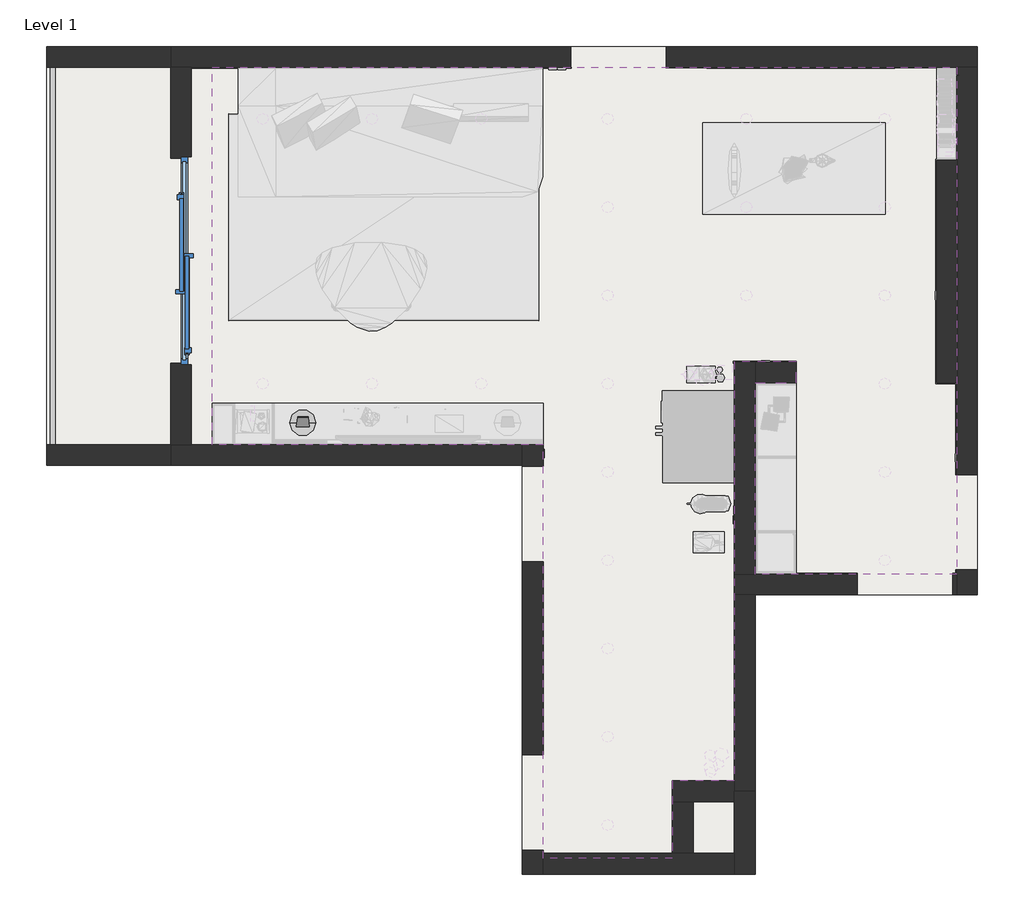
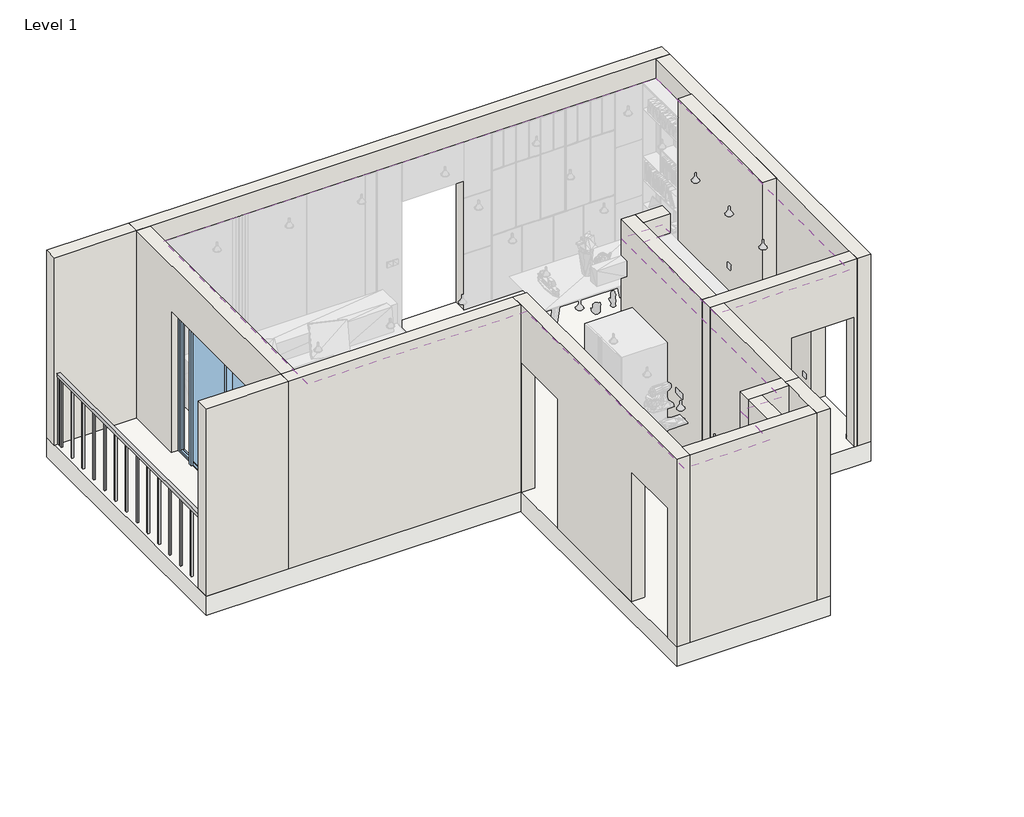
# One storey, part 1 of 3: 16 walls, 1 covering, 1 furniture element, 1 railing, 1 slab, 1 window.
"""IFC4 building model written with IfcOpenShell, lengths in millimetres."""

from ifc_helpers import new_model, si_unit, point, frame, frame_2d, origin, origin_with_axes, place, context, project, spatial, polyline, circle_curve, trimmed, segment, composite_curve, outline, extrude, faceted_brep, transform, mapped, element, save
from components import entertainment_center_7110b_entertainment_center_7110b_65f11607, window_c57f878f

model = new_model("IFC4")

# Units and contexts
model_context = context("Model", 3, world=origin())
ifc_project = project(units=[si_unit("LENGTHUNIT", "METRE", prefix="MILLI")], contexts=[model_context])

# Site, building, storey
site = spatial("IfcSite", under=ifc_project)
building = spatial("IfcBuilding", under=site)
storey = spatial("IfcBuildingStorey", under=building, Name="Level 1", Elevation=0.0)

# Covering
placement = place(None, origin())
element("IfcCovering", 1, ObjectType="600 x 1200mm Grid", at=placement, inside=storey, context=model_context, shape_type="SweptSolid", body=[
    extrude(outline(polyline([(-5253.3010987, -2802.1687653), (-5253.3010987, 847.8312347), (1946.6989013, 847.8312347), (1946.6989013, -4052.1687653), (-3.3010987, -4052.1687653), (-3.3010987, -2202.1687653), (396.6989013, -2202.1687653), (396.6989013, -2002.1687653), (-203.3010987, -2002.1687653), (-203.3010987, -6052.1687653), (-803.3010987, -6052.1687653), (-803.3010987, -6802.1687653), (-2053.3010987, -6802.1687653), (-2053.3010987, -2802.1687653), (-5253.3010987, -2802.1687653)]), holes=[polyline([(-2713.3010987, -1522.1687653), (-2713.3010987, -272.1687653), (-4673.3010987, -272.1687653), (-4673.3010987, -1522.1687653), (-2713.3010987, -1522.1687653)]), composite_curve([segment(trimmed(circle_curve(frame_2d((-4763.3010987, 347.8312347)), 55.3683433), [point((-4818.669442, 347.8312347))], [point((-4707.9327554, 347.8312347))], True, "CARTESIAN"), True, "CONTINUOUS"), segment(trimmed(circle_curve(frame_2d((-4763.3010987, 347.8312347)), 55.3683433), [point((-4707.9327554, 347.8312347))], [point((-4818.669442, 347.8312347))], True, "CARTESIAN"), True, "CONTINUOUS")], self_intersect=False), composite_curve([segment(trimmed(circle_curve(frame_2d((1251.6989013, 347.8312347)), 55.3683433), [point((1196.330558, 347.8312347))], [point((1307.0672446, 347.8312347))], True, "CARTESIAN"), True, "CONTINUOUS"), segment(trimmed(circle_curve(frame_2d((1251.6989013, 347.8312347)), 55.3683433), [point((1307.0672446, 347.8312347))], [point((1196.330558, 347.8312347))], True, "CARTESIAN"), True, "CONTINUOUS")], self_intersect=False), composite_curve([segment(trimmed(circle_curve(frame_2d((-1428.3010987, 347.8312347)), 55.3683433), [point((-1483.669442, 347.8312347))], [point((-1372.9327554, 347.8312347))], True, "CARTESIAN"), True, "CONTINUOUS"), segment(trimmed(circle_curve(frame_2d((-1428.3010987, 347.8312347)), 55.3683433), [point((-1372.9327554, 347.8312347))], [point((-1483.669442, 347.8312347))], True, "CARTESIAN"), True, "CONTINUOUS")], self_intersect=False), composite_curve([segment(trimmed(circle_curve(frame_2d((-2649.9677654, 347.8312347)), 55.3683433), [point((-2705.3361087, 347.8312347))], [point((-2594.5994221, 347.8312347))], True, "CARTESIAN"), True, "CONTINUOUS"), segment(trimmed(circle_curve(frame_2d((-2649.9677654, 347.8312347)), 55.3683433), [point((-2594.5994221, 347.8312347))], [point((-2705.3361087, 347.8312347))], True, "CARTESIAN"), True, "CONTINUOUS")], self_intersect=False), composite_curve([segment(trimmed(circle_curve(frame_2d((-3706.6344321, 347.8312347)), 55.3683433), [point((-3762.0027753, 347.8312347))], [point((-3651.2660888, 347.8312347))], True, "CARTESIAN"), True, "CONTINUOUS"), segment(trimmed(circle_curve(frame_2d((-3706.6344321, 347.8312347)), 55.3683433), [point((-3651.2660888, 347.8312347))], [point((-3762.0027753, 347.8312347))], True, "CARTESIAN"), True, "CONTINUOUS")], self_intersect=False), composite_curve([segment(trimmed(circle_curve(frame_2d((-88.3010987, 347.8312347)), 55.3683433), [point((-143.669442, 347.8312347))], [point((-32.9327554, 347.8312347))], True, "CARTESIAN"), True, "CONTINUOUS"), segment(trimmed(circle_curve(frame_2d((-88.3010987, 347.8312347)), 55.3683433), [point((-32.9327554, 347.8312347))], [point((-143.669442, 347.8312347))], True, "CARTESIAN"), True, "CONTINUOUS")], self_intersect=False), composite_curve([segment(trimmed(circle_curve(frame_2d((-1428.3010987, -2212.1687653)), 55.3683433), [point((-1483.669442, -2212.1687653))], [point((-1372.9327554, -2212.1687653))], True, "CARTESIAN"), True, "CONTINUOUS"), segment(trimmed(circle_curve(frame_2d((-1428.3010987, -2212.1687653)), 55.3683433), [point((-1372.9327554, -2212.1687653))], [point((-1483.669442, -2212.1687653))], True, "CARTESIAN"), True, "CONTINUOUS")], self_intersect=False), composite_curve([segment(trimmed(circle_curve(frame_2d((-2649.9677654, -2212.1687653)), 55.3683433), [point((-2705.3361087, -2212.1687653))], [point((-2594.5994221, -2212.1687653))], True, "CARTESIAN"), True, "CONTINUOUS"), segment(trimmed(circle_curve(frame_2d((-2649.9677654, -2212.1687653)), 55.3683433), [point((-2594.5994221, -2212.1687653))], [point((-2705.3361087, -2212.1687653))], True, "CARTESIAN"), True, "CONTINUOUS")], self_intersect=False), composite_curve([segment(trimmed(circle_curve(frame_2d((-3706.6344321, -2212.1687653)), 55.3683433), [point((-3762.0027753, -2212.1687653))], [point((-3651.2660888, -2212.1687653))], True, "CARTESIAN"), True, "CONTINUOUS"), segment(trimmed(circle_curve(frame_2d((-3706.6344321, -2212.1687653)), 55.3683433), [point((-3651.2660888, -2212.1687653))], [point((-3762.0027753, -2212.1687653))], True, "CARTESIAN"), True, "CONTINUOUS")], self_intersect=False), composite_curve([segment(trimmed(circle_curve(frame_2d((1251.6989013, -2212.1687653)), 55.3683433), [point((1196.330558, -2212.1687653))], [point((1307.0672446, -2212.1687653))], True, "CARTESIAN"), True, "CONTINUOUS"), segment(trimmed(circle_curve(frame_2d((1251.6989013, -2212.1687653)), 55.3683433), [point((1307.0672446, -2212.1687653))], [point((1196.330558, -2212.1687653))], True, "CARTESIAN"), True, "CONTINUOUS")], self_intersect=False), composite_curve([segment(trimmed(circle_curve(frame_2d((-4763.3010987, -2212.1687653)), 55.3683433), [point((-4818.669442, -2212.1687653))], [point((-4707.9327554, -2212.1687653))], True, "CARTESIAN"), True, "CONTINUOUS"), segment(trimmed(circle_curve(frame_2d((-4763.3010987, -2212.1687653)), 55.3683433), [point((-4707.9327554, -2212.1687653))], [point((-4818.669442, -2212.1687653))], True, "CARTESIAN"), True, "CONTINUOUS")], self_intersect=False), composite_curve([segment(trimmed(circle_curve(frame_2d((-88.3010987, -1358.8354319)), 55.3683433), [point((-143.669442, -1358.8354319))], [point((-32.9327554, -1358.8354319))], True, "CARTESIAN"), True, "CONTINUOUS"), segment(trimmed(circle_curve(frame_2d((-88.3010987, -1358.8354319)), 55.3683433), [point((-32.9327554, -1358.8354319))], [point((-143.669442, -1358.8354319))], True, "CARTESIAN"), True, "CONTINUOUS")], self_intersect=False), composite_curve([segment(trimmed(circle_curve(frame_2d((-1428.3010987, -1358.8354319)), 55.3683433), [point((-1483.669442, -1358.8354319))], [point((-1372.9327554, -1358.8354319))], True, "CARTESIAN"), True, "CONTINUOUS"), segment(trimmed(circle_curve(frame_2d((-1428.3010987, -1358.8354319)), 55.3683433), [point((-1372.9327554, -1358.8354319))], [point((-1483.669442, -1358.8354319))], True, "CARTESIAN"), True, "CONTINUOUS")], self_intersect=False), composite_curve([segment(trimmed(circle_curve(frame_2d((1251.6989013, -1358.8354319)), 55.3683433), [point((1196.330558, -1358.8354319))], [point((1307.0672446, -1358.8354319))], True, "CARTESIAN"), True, "CONTINUOUS"), segment(trimmed(circle_curve(frame_2d((1251.6989013, -1358.8354319)), 55.3683433), [point((1307.0672446, -1358.8354319))], [point((1196.330558, -1358.8354319))], True, "CARTESIAN"), True, "CONTINUOUS")], self_intersect=False), composite_curve([segment(trimmed(circle_curve(frame_2d((-88.3010987, -505.5020986)), 55.3683433), [point((-143.669442, -505.5020986))], [point((-32.9327554, -505.5020986))], True, "CARTESIAN"), True, "CONTINUOUS"), segment(trimmed(circle_curve(frame_2d((-88.3010987, -505.5020986)), 55.3683433), [point((-32.9327554, -505.5020986))], [point((-143.669442, -505.5020986))], True, "CARTESIAN"), True, "CONTINUOUS")], self_intersect=False), composite_curve([segment(trimmed(circle_curve(frame_2d((-1428.3010987, -505.5020986)), 55.3683433), [point((-1483.669442, -505.5020986))], [point((-1372.9327554, -505.5020986))], True, "CARTESIAN"), True, "CONTINUOUS"), segment(trimmed(circle_curve(frame_2d((-1428.3010987, -505.5020986)), 55.3683433), [point((-1372.9327554, -505.5020986))], [point((-1483.669442, -505.5020986))], True, "CARTESIAN"), True, "CONTINUOUS")], self_intersect=False), composite_curve([segment(trimmed(circle_curve(frame_2d((1251.6989013, -505.5020986)), 55.3683433), [point((1196.330558, -505.5020986))], [point((1307.0672446, -505.5020986))], True, "CARTESIAN"), True, "CONTINUOUS"), segment(trimmed(circle_curve(frame_2d((1251.6989013, -505.5020986)), 55.3683433), [point((1307.0672446, -505.5020986))], [point((1196.330558, -505.5020986))], True, "CARTESIAN"), True, "CONTINUOUS")], self_intersect=False), composite_curve([segment(trimmed(circle_curve(frame_2d((-1428.3010987, -3918.8354319)), 55.3683433), [point((-1483.669442, -3918.8354319))], [point((-1372.9327554, -3918.8354319))], True, "CARTESIAN"), True, "CONTINUOUS"), segment(trimmed(circle_curve(frame_2d((-1428.3010987, -3918.8354319)), 55.3683433), [point((-1372.9327554, -3918.8354319))], [point((-1483.669442, -3918.8354319))], True, "CARTESIAN"), True, "CONTINUOUS")], self_intersect=False), composite_curve([segment(trimmed(circle_curve(frame_2d((-1428.3010987, -3065.5020986)), 55.3683433), [point((-1483.669442, -3065.5020986))], [point((-1372.9327554, -3065.5020986))], True, "CARTESIAN"), True, "CONTINUOUS"), segment(trimmed(circle_curve(frame_2d((-1428.3010987, -3065.5020986)), 55.3683433), [point((-1372.9327554, -3065.5020986))], [point((-1483.669442, -3065.5020986))], True, "CARTESIAN"), True, "CONTINUOUS")], self_intersect=False), composite_curve([segment(trimmed(circle_curve(frame_2d((-1428.3010987, -4772.1687653)), 55.3683433), [point((-1483.669442, -4772.1687653))], [point((-1372.9327554, -4772.1687653))], True, "CARTESIAN"), True, "CONTINUOUS"), segment(trimmed(circle_curve(frame_2d((-1428.3010987, -4772.1687653)), 55.3683433), [point((-1372.9327554, -4772.1687653))], [point((-1483.669442, -4772.1687653))], True, "CARTESIAN"), True, "CONTINUOUS")], self_intersect=False), composite_curve([segment(trimmed(circle_curve(frame_2d((-1428.3010987, -6478.8354319)), 55.3683433), [point((-1483.669442, -6478.8354319))], [point((-1372.9327554, -6478.8354319))], True, "CARTESIAN"), True, "CONTINUOUS"), segment(trimmed(circle_curve(frame_2d((-1428.3010987, -6478.8354319)), 55.3683433), [point((-1372.9327554, -6478.8354319))], [point((-1483.669442, -6478.8354319))], True, "CARTESIAN"), True, "CONTINUOUS")], self_intersect=False), composite_curve([segment(trimmed(circle_curve(frame_2d((-1428.3010987, -5625.5020986)), 55.3683433), [point((-1483.669442, -5625.5020986))], [point((-1372.9327554, -5625.5020986))], True, "CARTESIAN"), True, "CONTINUOUS"), segment(trimmed(circle_curve(frame_2d((-1428.3010987, -5625.5020986)), 55.3683433), [point((-1372.9327554, -5625.5020986))], [point((-1483.669442, -5625.5020986))], True, "CARTESIAN"), True, "CONTINUOUS")], self_intersect=False), composite_curve([segment(trimmed(circle_curve(frame_2d((1251.6989013, -3065.5020986)), 55.3683433), [point((1196.330558, -3065.5020986))], [point((1307.0672446, -3065.5020986))], True, "CARTESIAN"), True, "CONTINUOUS"), segment(trimmed(circle_curve(frame_2d((1251.6989013, -3065.5020986)), 55.3683433), [point((1307.0672446, -3065.5020986))], [point((1196.330558, -3065.5020986))], True, "CARTESIAN"), True, "CONTINUOUS")], self_intersect=False), composite_curve([segment(trimmed(circle_curve(frame_2d((1251.6989013, -3918.8354319)), 55.3683433), [point((1196.330558, -3918.8354319))], [point((1307.0672446, -3918.8354319))], True, "CARTESIAN"), True, "CONTINUOUS"), segment(trimmed(circle_curve(frame_2d((1251.6989013, -3918.8354319)), 55.3683433), [point((1307.0672446, -3918.8354319))], [point((1196.330558, -3918.8354319))], True, "CARTESIAN"), True, "CONTINUOUS")], self_intersect=False)]), frame((0.0, 0.0, 2600.0), z_axis=(0.0, 0.0, 1.0), x_axis=(1.0, 0.0, 0.0)), (0.0, 0.0, 1.0), 30.0),
])

# Furniture
entertainment_center_7110b_entertainment_center_7110b_shape = entertainment_center_7110b_entertainment_center_7110b_65f11607(model_context)
element("IfcFurniture", 2, ObjectType="Entertainment_Center_7110b : Entertainment_Center_7110b", at=placement, inside=storey, context=model_context, shape_type="MappedRepresentation", body=[
    mapped(entertainment_center_7110b_entertainment_center_7110b_shape, transform((-4373.3010987, -2282.1687653, -120.0), x_axis=(-1.0, 0.0, 0.0), y_axis=(0.0, -1.0, 0.0), z_axis=(0.0, 0.0, 1.0))),
])

# Railing
element("IfcRailing", 3, ObjectType="1100mm", at=placement, inside=storey, context=model_context, shape_type="SweptSolid", body=[
    extrude(outline(polyline([(-6768.3010987, -2802.1687653), (-6818.3010987, -2802.1687653), (-6818.3010987, 847.8312347), (-6768.3010987, 847.8312347), (-6768.3010987, -2802.1687653)])), frame((0.0, 0.0, 1050.0), z_axis=(0.0, 0.0, 1.0), x_axis=(1.0, 0.0, 0.0)), (0.0, 0.0, 1.0), 50.0),
    extrude(outline(polyline([(-6780.8010987, 760.3312347), (-6805.8010987, 760.3312347), (-6805.8010987, 785.3312347), (-6780.8010987, 785.3312347), (-6780.8010987, 760.3312347)])), origin_with_axes(), (0.0, 0.0, 1.0), 1050.0),
    extrude(outline(polyline([(-6780.8010987, 485.3312347), (-6805.8010987, 485.3312347), (-6805.8010987, 510.3312347), (-6780.8010987, 510.3312347), (-6780.8010987, 485.3312347)])), origin_with_axes(), (0.0, 0.0, 1.0), 1050.0),
    extrude(outline(polyline([(-6780.8010987, 210.3312347), (-6805.8010987, 210.3312347), (-6805.8010987, 235.3312347), (-6780.8010987, 235.3312347), (-6780.8010987, 210.3312347)])), origin_with_axes(), (0.0, 0.0, 1.0), 1050.0),
    extrude(outline(polyline([(-6780.8010987, -64.6687653), (-6805.8010987, -64.6687653), (-6805.8010987, -39.6687653), (-6780.8010987, -39.6687653), (-6780.8010987, -64.6687653)])), origin_with_axes(), (0.0, 0.0, 1.0), 1050.0),
    extrude(outline(polyline([(-6780.8010987, -339.6687653), (-6805.8010987, -339.6687653), (-6805.8010987, -314.6687653), (-6780.8010987, -314.6687653), (-6780.8010987, -339.6687653)])), origin_with_axes(), (0.0, 0.0, 1.0), 1050.0),
    extrude(outline(polyline([(-6780.8010987, -614.6687653), (-6805.8010987, -614.6687653), (-6805.8010987, -589.6687653), (-6780.8010987, -589.6687653), (-6780.8010987, -614.6687653)])), origin_with_axes(), (0.0, 0.0, 1.0), 1050.0),
    extrude(outline(polyline([(-6780.8010987, -889.6687653), (-6805.8010987, -889.6687653), (-6805.8010987, -864.6687653), (-6780.8010987, -864.6687653), (-6780.8010987, -889.6687653)])), origin_with_axes(), (0.0, 0.0, 1.0), 1050.0),
    extrude(outline(polyline([(-6780.8010987, -1164.6687653), (-6805.8010987, -1164.6687653), (-6805.8010987, -1139.6687653), (-6780.8010987, -1139.6687653), (-6780.8010987, -1164.6687653)])), origin_with_axes(), (0.0, 0.0, 1.0), 1050.0),
    extrude(outline(polyline([(-6780.8010987, -1439.6687653), (-6805.8010987, -1439.6687653), (-6805.8010987, -1414.6687653), (-6780.8010987, -1414.6687653), (-6780.8010987, -1439.6687653)])), origin_with_axes(), (0.0, 0.0, 1.0), 1050.0),
    extrude(outline(polyline([(-6780.8010987, -1714.6687653), (-6805.8010987, -1714.6687653), (-6805.8010987, -1689.6687653), (-6780.8010987, -1689.6687653), (-6780.8010987, -1714.6687653)])), origin_with_axes(), (0.0, 0.0, 1.0), 1050.0),
    extrude(outline(polyline([(-6780.8010987, -1989.6687653), (-6805.8010987, -1989.6687653), (-6805.8010987, -1964.6687653), (-6780.8010987, -1964.6687653), (-6780.8010987, -1989.6687653)])), origin_with_axes(), (0.0, 0.0, 1.0), 1050.0),
    extrude(outline(polyline([(-6780.8010987, -2264.6687653), (-6805.8010987, -2264.6687653), (-6805.8010987, -2239.6687653), (-6780.8010987, -2239.6687653), (-6780.8010987, -2264.6687653)])), origin_with_axes(), (0.0, 0.0, 1.0), 1050.0),
    extrude(outline(polyline([(-6780.8010987, -2539.6687653), (-6805.8010987, -2539.6687653), (-6805.8010987, -2514.6687653), (-6780.8010987, -2514.6687653), (-6780.8010987, -2539.6687653)])), origin_with_axes(), (0.0, 0.0, 1.0), 1050.0),
    extrude(outline(polyline([(-6780.8010987, 822.8312347), (-6805.8010987, 822.8312347), (-6805.8010987, 847.8312347), (-6780.8010987, 847.8312347), (-6780.8010987, 822.8312347)])), origin_with_axes(), (0.0, 0.0, 1.0), 1050.0),
    extrude(outline(polyline([(-6780.8010987, -2802.1687653), (-6805.8010987, -2802.1687653), (-6805.8010987, -2777.1687653), (-6780.8010987, -2777.1687653), (-6780.8010987, -2802.1687653)])), origin_with_axes(), (0.0, 0.0, 1.0), 1050.0),
])

# Slab
element("IfcSlab", 4, ObjectType="کف طبقات", at=placement, inside=storey, context=model_context, shape_type="Brep", body=[
    faceted_brep([(2146.6989013, 1047.8312347, -300.0), (2146.6989013, -4252.1687653, -300.0), (-3.3010987, -4252.1687653, -300.0), (-3.3010987, -6952.1687653, -300.0), (-2253.3010987, -6952.1687653, -300.0), (-2253.3010987, -3002.1687653, -300.0), (-6853.3010987, -3002.1687653, -300.0), (-6853.3010987, 1047.8312347, -300.0), (2146.6989013, 1047.8312347, 0.0), (-862.3010987, 1047.8312347, 0.0), (-1784.3010987, 1047.8312347, 0.0), (-5653.3010987, 1047.8312347, 0.0), (-6853.3010987, 1047.8312347, 0.0), (-6853.3010987, -3002.1687653, 0.0), (-5653.3010987, -3002.1687653, 0.0), (-2253.3010987, -3002.1687653, 0.0), (-2253.3010987, -3012.1687653, 0.0), (-2253.3010987, -3934.1687653, 0.0), (-2253.3010987, -5800.1687653, 0.0), (-2253.3010987, -6722.1687653, 0.0), (-2253.3010987, -6952.1687653, 0.0), (-2053.3010987, -6952.1687653, 0.0), (-203.3010987, -6952.1687653, 0.0), (-3.3010987, -6952.1687653, 0.0), (-3.3010987, -6152.1687653, 0.0), (-3.3010987, -4252.1687653, 0.0), (984.6989013, -4252.1687653, 0.0), (1906.6989013, -4252.1687653, 0.0), (1946.6989013, -4252.1687653, 0.0), (2146.6989013, -4252.1687653, 0.0), (2146.6989013, -4012.1687653, 0.0), (2146.6989013, -3090.1687653, 0.0), (2146.6989013, 847.8312347, 0.0)], [[[0, 1, 2, 3, 4, 5, 6, 7]], [[8, 9, 10, 11, 12, 13, 14, 15, 16, 17, 18, 19, 20, 21, 22, 23, 24, 25, 26, 27, 28, 29, 30, 31, 32]], [[1, 0, 8, 32, 31, 30, 29]], [[4, 3, 23, 22, 21, 20]], [[7, 6, 13, 12]], [[0, 7, 12, 11, 10, 9, 8]], [[2, 1, 29, 28, 27, 26, 25]], [[3, 2, 25, 24, 23]], [[5, 4, 20, 19, 18, 17, 16, 15]], [[6, 5, 15, 14, 13]]]),
])

# Walls
element("IfcWall", 5, ObjectType="Generic - 200mm", at=placement, inside=storey, context=model_context, shape_type="Brep", body=[
    faceted_brep([(1946.6989013, 847.8312347, 2900.0), (1946.6989013, 847.8312347, 0.0), (1946.6989013, -51.4616585, 0.0), (1946.6989013, -51.4616585, 2900.0), (1946.6989013, -4252.1687653, 0.0), (1946.6989013, -4252.1687653, 2900.0), (1946.6989013, -4052.1687653, 2900.0), (1946.6989013, -2202.1687653, 2900.0), (1946.6989013, -2202.1687653, 0.0), (1946.6989013, -3090.1687653, 0.0), (1946.6989013, -3090.1687653, 2010.0), (1946.6989013, -4012.1687653, 2010.0), (1946.6989013, -4012.1687653, 0.0), (1946.6989013, -4052.1687653, 0.0), (2146.6989013, 847.8312347, 0.0), (2146.6989013, 847.8312347, 2900.0), (2146.6989013, -4252.1687653, 2900.0), (2146.6989013, -4252.1687653, 0.0), (2146.6989013, -4012.1687653, 0.0), (2146.6989013, -4012.1687653, 2010.0), (2146.6989013, -3090.1687653, 2010.0), (2146.6989013, -3090.1687653, 0.0), (1951.6989013, -2202.1687653, 0.0), (1951.6989013, -51.4616585, 0.0), (1951.6989013, -51.4616585, 2900.0), (1951.6989013, -2202.1687653, 2900.0)], [[[0, 1, 2, 3]], [[4, 5, 6, 7, 8, 9, 10, 11, 12, 13]], [[14, 15, 16, 17, 18, 19, 20, 21]], [[1, 14, 21, 9, 8, 22, 23, 2]], [[17, 4, 13, 12, 18]], [[1, 0, 15, 14]], [[5, 4, 17, 16]], [[24, 23, 22, 25]], [[25, 22, 8, 7]], [[23, 24, 3, 2]], [[11, 19, 18, 12]], [[19, 11, 10, 20]], [[20, 10, 9, 21]], [[5, 16, 15, 0, 3, 24, 25, 7, 6]]]),
])
element("IfcWall", 6, ObjectType="Generic - 200mm", at=placement, inside=storey, context=model_context, shape_type="Brep", body=[
    faceted_brep([(1946.6989013, -4052.1687653, 2900.0), (1946.6989013, -4052.1687653, 0.0), (1906.6989013, -4052.1687653, 0.0), (1906.6989013, -4052.1687653, 2010.0), (984.6989013, -4052.1687653, 2010.0), (984.6989013, -4052.1687653, 0.0), (-3.3010987, -4052.1687653, 0.0), (-203.3010987, -4052.1687653, 0.0), (-203.3010987, -4052.1687653, 2900.0), (-3.3010987, -4052.1687653, 2900.0), (1946.6989013, -4252.1687653, 0.0), (1946.6989013, -4252.1687653, 2900.0), (-3.3010987, -4252.1687653, 2900.0), (-203.3010987, -4252.1687653, 2900.0), (-203.3010987, -4252.1687653, 0.0), (-3.3010987, -4252.1687653, 0.0), (984.6989013, -4252.1687653, 0.0), (984.6989013, -4252.1687653, 2010.0), (1906.6989013, -4252.1687653, 2010.0), (1906.6989013, -4252.1687653, 0.0)], [[[0, 1, 2, 3, 4, 5, 6, 7, 8, 9]], [[10, 11, 12, 13, 14, 15, 16, 17, 18, 19]], [[1, 10, 19, 2]], [[14, 7, 6, 5, 16, 15]], [[1, 0, 11, 10]], [[8, 7, 14, 13]], [[18, 3, 2, 19]], [[3, 18, 17, 4]], [[4, 17, 16, 5]], [[11, 0, 9, 8, 13, 12]]]),
])
element("IfcWall", 7, ObjectType="Generic - 200mm", at=placement, inside=storey, context=model_context, shape_type="Brep", body=[
    faceted_brep([(-3.3010987, -6952.1687653, 0.0), (-3.3010987, -6152.1687653, 0.0), (-3.3010987, -6152.1687653, 2900.0), (-3.3010987, -6952.1687653, 2900.0), (-203.3010987, -6952.1687653, 0.0), (-203.3010987, -6952.1687653, 2900.0), (-203.3010987, -6752.1687653, 2900.0), (-203.3010987, -6252.1687653, 2900.0), (-203.3010987, -6152.1687653, 2900.0), (-203.3010987, -6152.1687653, 0.0), (-203.3010987, -6252.1687653, 0.0), (-203.3010987, -6752.1687653, 0.0)], [[[0, 1, 2, 3]], [[4, 5, 6, 7, 8, 9, 10, 11]], [[1, 0, 4, 11, 10, 9]], [[2, 1, 9, 8]], [[0, 3, 5, 4]], [[3, 2, 8, 7, 6, 5]]]),
])
element("IfcWall", 8, ObjectType="Generic - 200mm", at=placement, inside=storey, context=model_context, shape_type="Brep", body=[
    faceted_brep([(-2253.3010987, -2802.1687653, 2900.0), (-2253.3010987, -2802.1687653, 0.0), (-2253.3010987, -3002.1687653, 0.0), (-2253.3010987, -3012.1687653, 0.0), (-2253.3010987, -3012.1687653, 2010.0), (-2253.3010987, -3934.1687653, 2010.0), (-2253.3010987, -3934.1687653, 0.0), (-2253.3010987, -5800.1687653, 0.0), (-2253.3010987, -5800.1687653, 2010.0), (-2253.3010987, -6722.1687653, 2010.0), (-2253.3010987, -6722.1687653, 0.0), (-2253.3010987, -6952.1687653, 0.0), (-2253.3010987, -6952.1687653, 2900.0), (-2253.3010987, -3002.1687653, 2900.0), (-2053.3010987, -2802.1687653, 2900.0), (-2053.3010987, -6752.1687653, 2900.0), (-2053.3010987, -6952.1687653, 2900.0), (-2053.3010987, -6952.1687653, 0.0), (-2053.3010987, -6752.1687653, 0.0), (-2053.3010987, -6722.1687653, 0.0), (-2053.3010987, -6722.1687653, 2010.0), (-2053.3010987, -5800.1687653, 2010.0), (-2053.3010987, -5800.1687653, 0.0), (-2053.3010987, -3934.1687653, 0.0), (-2053.3010987, -3934.1687653, 2010.0), (-2053.3010987, -3012.1687653, 2010.0), (-2053.3010987, -3012.1687653, 0.0), (-2053.3010987, -2802.1687653, 0.0)], [[[0, 1, 2, 3, 4, 5, 6, 7, 8, 9, 10, 11, 12, 13]], [[14, 15, 16, 17, 18, 19, 20, 21, 22, 23, 24, 25, 26, 27]], [[1, 27, 26, 3, 2]], [[22, 7, 6, 23]], [[11, 10, 19, 18, 17]], [[1, 0, 14, 27]], [[9, 20, 19, 10]], [[20, 9, 8, 21]], [[21, 8, 7, 22]], [[25, 4, 3, 26]], [[4, 25, 24, 5]], [[5, 24, 23, 6]], [[16, 15, 14, 0, 13, 12]], [[12, 11, 17, 16]]]),
])
element("IfcWall", 9, ObjectType="Generic - 200mm", at=placement, inside=storey, context=model_context, shape_type="Brep", body=[
    faceted_brep([(-2253.3010987, -2802.1687653, 0.0), (-5453.3010987, -2802.1687653, 0.0), (-5653.3010987, -2802.1687653, 0.0), (-5653.3010987, -2802.1687653, 2900.0), (-5453.3010987, -2802.1687653, 2900.0), (-2253.3010987, -2802.1687653, 2900.0), (-2253.3010987, -3002.1687653, 0.0), (-2253.3010987, -3002.1687653, 2900.0), (-5653.3010987, -3002.1687653, 2900.0), (-5653.3010987, -3002.1687653, 0.0)], [[[0, 1, 2, 3, 4, 5]], [[6, 7, 8, 9]], [[2, 1, 0, 6, 9]], [[0, 5, 7, 6]], [[3, 2, 9, 8]], [[5, 4, 3, 8, 7]]]),
])
element("IfcWall", 10, ObjectType="Generic - 200mm", at=placement, inside=storey, context=model_context, shape_type="Brep", body=[
    faceted_brep([(-5653.3010987, -2802.1687653, 0.0), (-5653.3010987, -2802.1687653, 2900.0), (-5653.3010987, 847.8312347, 2900.0), (-5653.3010987, 847.8312347, 0.0), (-5653.3010987, -33.292788, 0.0), (-5653.3010987, -33.292788, 2190.0), (-5653.3010987, -2013.292788, 2190.0), (-5653.3010987, -2013.292788, 0.0), (-5453.3010987, -2802.1687653, 2900.0), (-5453.3010987, -2802.1687653, 0.0), (-5453.3010987, -2030.292788, 0.0), (-5453.3010987, -2030.292788, 2207.0), (-5453.3010987, -16.292788, 2207.0), (-5453.3010987, -16.292788, 0.0), (-5453.3010987, 847.8312347, 0.0), (-5453.3010987, 847.8312347, 2900.0), (-5553.3010987, -2013.292788, 0.0), (-5553.3010987, -2030.292788, 0.0), (-5553.3010987, -16.292788, 0.0), (-5553.3010987, -33.292788, 0.0), (-5553.3010987, -2030.292788, 2207.0), (-5553.3010987, -16.292788, 2207.0), (-5553.3010987, -2013.292788, 2190.0), (-5553.3010987, -33.292788, 2190.0)], [[[0, 1, 2, 3, 4, 5, 6, 7]], [[8, 9, 10, 11, 12, 13, 14, 15]], [[9, 0, 7, 16, 17, 10]], [[3, 14, 13, 18, 19, 4]], [[1, 0, 9, 8]], [[3, 2, 15, 14]], [[20, 21, 12, 11]], [[21, 18, 13, 12]], [[21, 20, 17, 16, 22, 23, 19, 18]], [[17, 20, 11, 10]], [[23, 22, 6, 5]], [[19, 23, 5, 4]], [[22, 16, 7, 6]], [[2, 1, 8, 15]]]),
])
element("IfcWall", 11, ObjectType="Generic - 200mm", at=placement, inside=storey, context=model_context, shape_type="Brep", body=[
    faceted_brep([(-203.3010987, -6052.1687653, 0.0), (-803.3010987, -6052.1687653, 0.0), (-803.3010987, -6052.1687653, 2900.0), (-203.3010987, -6052.1687653, 2900.0), (-203.3010987, -6252.1687653, 0.0), (-203.3010987, -6252.1687653, 2900.0), (-603.3010987, -6252.1687653, 2900.0), (-803.3010987, -6252.1687653, 2900.0), (-803.3010987, -6252.1687653, 0.0), (-603.3010987, -6252.1687653, 0.0), (-203.3010987, -6152.1687653, 0.0), (-203.3010987, -6152.1687653, 2900.0)], [[[0, 1, 2, 3]], [[4, 5, 6, 7, 8, 9]], [[1, 0, 10, 4, 9, 8]], [[0, 3, 11, 5, 4, 10]], [[2, 1, 8, 7]], [[3, 2, 7, 6, 5, 11]]]),
])
element("IfcWall", 12, ObjectType="Generic - 200mm", at=placement, inside=storey, context=model_context, shape_type="SweptSolid", body=[
    extrude(outline(polyline([(-803.3010987, -6752.1687653), (-803.3010987, -6252.1687653), (-603.3010987, -6252.1687653), (-603.3010987, -6752.1687653), (-803.3010987, -6752.1687653)])), origin_with_axes(), (0.0, 0.0, 1.0), 2900.0),
])
element("IfcWall", 13, ObjectType="Generic - 200mm", at=placement, inside=storey, context=model_context, shape_type="Brep", body=[
    faceted_brep([(-203.3010987, -6752.1687653, 0.0), (-603.3010987, -6752.1687653, 0.0), (-803.3010987, -6752.1687653, 0.0), (-2053.3010987, -6752.1687653, 0.0), (-2053.3010987, -6752.1687653, 2900.0), (-803.3010987, -6752.1687653, 2900.0), (-603.3010987, -6752.1687653, 2900.0), (-203.3010987, -6752.1687653, 2900.0), (-203.3010987, -6952.1687653, 0.0), (-203.3010987, -6952.1687653, 2900.0), (-2053.3010987, -6952.1687653, 2900.0), (-2053.3010987, -6952.1687653, 0.0)], [[[0, 1, 2, 3, 4, 5, 6, 7]], [[8, 9, 10, 11]], [[3, 2, 1, 0, 8, 11]], [[0, 7, 9, 8]], [[7, 6, 5, 4, 10, 9]], [[4, 3, 11, 10]]]),
])
element("IfcWall", 14, ObjectType="Generic - 200mm", at=placement, inside=storey, context=model_context, shape_type="Brep", body=[
    faceted_brep([(-3.3010987, -2202.1687653, 0.0), (396.6989013, -2202.1687653, 0.0), (396.6989013, -2202.1687653, 2900.0), (-3.3010987, -2202.1687653, 2900.0), (396.6989013, -2002.1687653, 0.0), (-3.3010987, -2002.1687653, 0.0), (-3.3010987, -2002.1687653, 80.0), (-3.3010987, -2002.1687653, 2900.0), (396.6989013, -2002.1687653, 2900.0), (396.6989013, -2002.1687653, 80.0)], [[[0, 1, 2, 3]], [[4, 5, 6, 7, 8, 9]], [[1, 0, 5, 4]], [[2, 1, 4, 9, 8]], [[0, 3, 7, 6, 5]], [[3, 2, 8, 7]]]),
])
element("IfcWall", 15, ObjectType="Generic - 200mm", at=placement, inside=storey, context=model_context, shape_type="Brep", body=[
    faceted_brep([(-862.3010987, 847.8312347, 2010.0), (-862.3010987, 847.8312347, 0.0), (1946.6989013, 847.8312347, 0.0), (2146.6989013, 847.8312347, 0.0), (2146.6989013, 847.8312347, 2900.0), (1946.6989013, 847.8312347, 2900.0), (-5453.3010987, 847.8312347, 2900.0), (-5653.3010987, 847.8312347, 2900.0), (-5653.3010987, 847.8312347, 0.0), (-5453.3010987, 847.8312347, 0.0), (-1784.3010987, 847.8312347, 0.0), (-1784.3010987, 847.8312347, 2010.0), (-862.3010987, 1047.8312347, 0.0), (-862.3010987, 1047.8312347, 2010.0), (-1784.3010987, 1047.8312347, 2010.0), (-1784.3010987, 1047.8312347, 0.0), (-5653.3010987, 1047.8312347, 0.0), (-5653.3010987, 1047.8312347, 2900.0), (2146.6989013, 1047.8312347, 2900.0), (2146.6989013, 1047.8312347, 0.0)], [[[0, 1, 2, 3, 4, 5, 6, 7, 8, 9, 10, 11]], [[12, 13, 14, 15, 16, 17, 18, 19]], [[18, 4, 3, 19]], [[1, 0, 13, 12]], [[0, 11, 14, 13]], [[11, 10, 15, 14]], [[10, 9, 8, 16, 15]], [[3, 2, 1, 12, 19]], [[7, 17, 16, 8]], [[7, 6, 5, 4, 18, 17]]]),
])
element("IfcWall", 16, ObjectType="Generic - 200mm", at=placement, inside=storey, context=model_context, shape_type="Brep", body=[
    faceted_brep([(-3.3010987, -2002.1687653, 2900.0), (-3.3010987, -2202.1687653, 2900.0), (-3.3010987, -4052.1687653, 2900.0), (-3.3010987, -4052.1687653, 80.0), (-3.3010987, -4052.1687653, 0.0), (-3.3010987, -4042.1687653, 0.0), (-3.3010987, -2202.1687653, 0.0), (-3.3010987, -2002.1687653, 0.0), (-3.3010987, -2002.1687653, 80.0), (-203.3010987, -4052.1687653, 0.0), (-203.3010987, -4052.1687653, 2900.0), (-203.3010987, -2002.1687653, 2900.0), (-203.3010987, -2002.1687653, 80.0), (-203.3010987, -2002.1687653, 0.0), (-203.3010987, -2012.1687653, 0.0)], [[[0, 1, 2, 3, 4, 5, 6, 7, 8]], [[9, 10, 11, 12, 13, 14]], [[13, 7, 6, 5, 4, 9, 14]], [[7, 13, 12, 11, 0, 8]], [[10, 9, 4, 3, 2]], [[2, 1, 0, 11, 10]]]),
])
element("IfcWall", 17, ObjectType="Generic - 200mm", at=placement, inside=storey, context=model_context, shape_type="Brep", body=[
    faceted_brep([(-3.3010987, -6152.1687653, 0.0), (-3.3010987, -4252.1687653, 0.0), (-3.3010987, -4252.1687653, 2900.0), (-3.3010987, -6152.1687653, 2900.0), (-203.3010987, -6152.1687653, 0.0), (-203.3010987, -6152.1687653, 2900.0), (-203.3010987, -6052.1687653, 2900.0), (-203.3010987, -4252.1687653, 2900.0), (-203.3010987, -4252.1687653, 0.0), (-203.3010987, -6052.1687653, 0.0)], [[[0, 1, 2, 3]], [[4, 5, 6, 7, 8, 9]], [[1, 0, 4, 9, 8]], [[0, 3, 5, 4]], [[2, 1, 8, 7]], [[3, 2, 7, 6, 5]]]),
])
element("IfcWall", 18, ObjectType="Generic - 200mm", at=placement, inside=storey, context=model_context, shape_type="Brep", body=[
    faceted_brep([(1751.6989013, -51.4616585, 0.0), (1751.6989013, -2202.1687653, 0.0), (1751.6989013, -2202.1687653, 80.0), (1751.6989013, -2202.1687653, 2900.0), (1751.6989013, -51.4616585, 2900.0), (1751.6989013, -51.4616585, 80.0), (1951.6989013, -2202.1687653, 0.0), (1951.6989013, -51.4616585, 0.0), (1951.6989013, -51.4616585, 2900.0), (1951.6989013, -2202.1687653, 2900.0), (1946.6989013, -51.4616585, 0.0), (1946.6989013, -2202.1687653, 0.0), (1946.6989013, -2202.1687653, 2900.0), (1946.6989013, -51.4616585, 2900.0)], [[[0, 1, 2, 3, 4, 5]], [[6, 7, 8, 9]], [[1, 0, 10, 7, 6, 11]], [[6, 9, 12, 3, 2, 1, 11]], [[8, 7, 10, 0, 5, 4, 13]], [[4, 3, 12, 9, 8, 13]]]),
])
element("IfcWall", 19, ObjectType="Generic - 200mm", at=placement, inside=storey, context=model_context, shape_type="SweptSolid", body=[
    extrude(outline(polyline([(-5653.3010987, 847.8312347), (-6853.3010987, 847.8312347), (-6853.3010987, 1047.8312347), (-5653.3010987, 1047.8312347), (-5653.3010987, 847.8312347)])), origin_with_axes(), (0.0, 0.0, 1.0), 2900.0),
])
element("IfcWall", 20, ObjectType="Generic - 200mm", at=placement, inside=storey, context=model_context, shape_type="SweptSolid", body=[
    extrude(outline(polyline([(-6853.3010987, -2802.1687653), (-5653.3010987, -2802.1687653), (-5653.3010987, -3002.1687653), (-6853.3010987, -3002.1687653), (-6853.3010987, -2802.1687653)])), origin_with_axes(), (0.0, 0.0, 1.0), 2900.0),
])

# Window
window_shape = window_c57f878f(model_context)
element("IfcWindow", 21, ObjectType="Domal_Slide TB65_Win_2 Vent_Balcony_Family : Domal_Slide TB65_Win_2 Vent_Balcony_Family", at=placement, inside=storey, context=model_context, shape_type="MappedRepresentation", body=[
    mapped(window_shape, transform((-5563.3010987, -1023.292788, 0.0), x_axis=(0.0, 1.0, 0.0), y_axis=(-1.0, 0.0, 0.0), z_axis=(0.0, 0.0, 1.0))),
])

save(model, "model.ifc")
